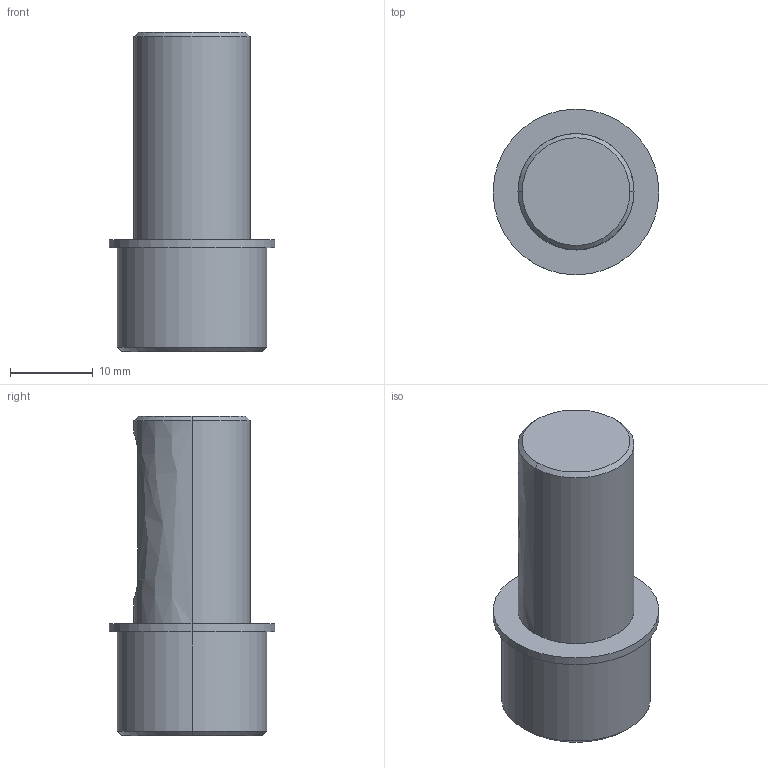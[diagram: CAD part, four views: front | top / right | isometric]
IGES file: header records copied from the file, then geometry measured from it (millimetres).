
Start section:  PTC IGES file: sj-46.igs
Global section: file name: sj-46.igs; native system: Pro/ENGINEER by Parametric Technology Corporation; preprocessor: 2008230; author: Owner; organization: Unknown; date: 20130329.104005; units: millimetre
Bounding box: 20 x 20 x 38.5 mm (x, y, z)
Volume: 7060.9 mm3; surface area: 2585.1 mm2
Topology: 1 solids, 1 shells, 19 faces, 38 edges, 24 vertices
Faces by surface type: revolution 12, bspline 7
